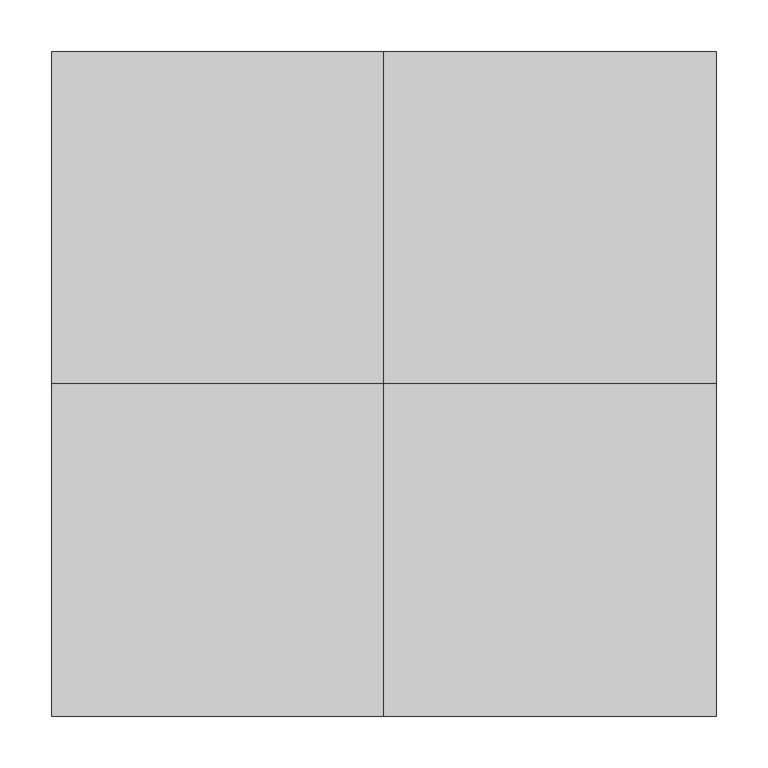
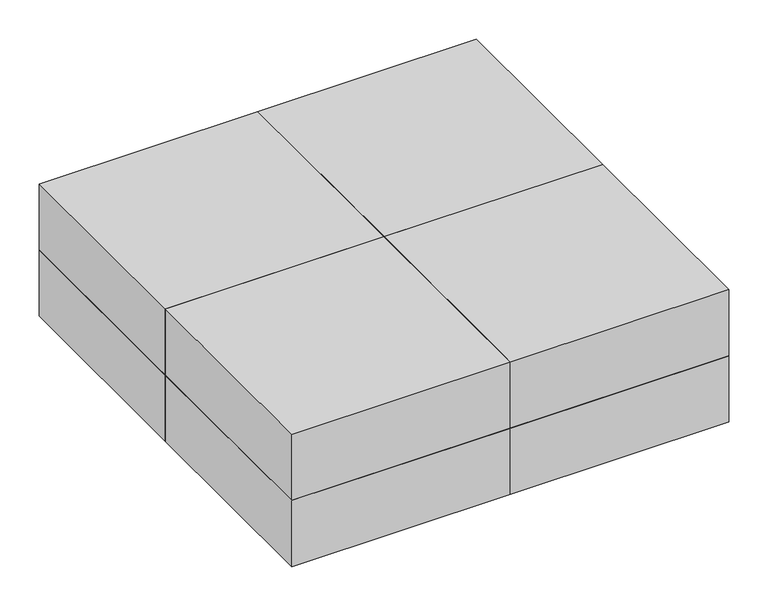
"""IFC4 building model written with IfcOpenShell, lengths in millimetres: proxy geometry, EFS_Fire & Smoke Combination Damper  : Fire Smoke Damper (FSD) _EFS-FS-1.5-1."""

from ifc_helpers import new_model, si_unit, frame, origin, place, context, project, spatial, polyline, outline, extrude, source, transform, mapped, element, save


def mechanical_equipment_000f9c02(model_context):
    return source(origin(), model_context, "Body", "SweptSolid", [
        extrude(outline(polyline([(0.0, -321.5), (0.0, 0.0), (321.5, 0.0), (321.5, -321.5), (0.0, -321.5)])), frame((0.0, 0.0, -203.0), z_axis=(0.0, 0.0, 1.0), x_axis=(1.0, 0.0, 0.0)), (0.0, 0.0, 1.0), 103.0),
        extrude(outline(polyline([(0.0, -321.5), (-321.5, -321.5), (-321.5, 0.0), (0.0, 0.0), (0.0, -321.5)])), frame((0.0, 0.0, -203.0), z_axis=(0.0, 0.0, 1.0), x_axis=(1.0, 0.0, 0.0)), (0.0, 0.0, 1.0), 103.0),
        extrude(outline(polyline([(0.0, 321.5), (321.5, 321.5), (321.5, 0.0), (0.0, 0.0), (0.0, 321.5)])), frame((0.0, 0.0, -203.0), z_axis=(0.0, 0.0, 1.0), x_axis=(1.0, 0.0, 0.0)), (0.0, 0.0, 1.0), 103.0),
        extrude(outline(polyline([(0.0, 321.5), (0.0, 0.0), (-321.5, 0.0), (-321.5, 321.5), (0.0, 321.5)])), frame((0.0, 0.0, -203.0), z_axis=(0.0, 0.0, 1.0), x_axis=(1.0, 0.0, 0.0)), (0.0, 0.0, 1.0), 103.0),
        extrude(outline(polyline([(0.0, -321.5), (0.0, 0.0), (321.5, 0.0), (321.5, -321.5), (0.0, -321.5)])), frame((0.0, 0.0, -100.0), z_axis=(0.0, 0.0, 1.0), x_axis=(1.0, 0.0, 0.0)), (0.0, 0.0, 1.0), 103.0),
        extrude(outline(polyline([(0.0, -321.5), (-321.5, -321.5), (-321.5, 0.0), (0.0, 0.0), (0.0, -321.5)])), frame((0.0, 0.0, -100.0), z_axis=(0.0, 0.0, 1.0), x_axis=(1.0, 0.0, 0.0)), (0.0, 0.0, 1.0), 103.0),
        extrude(outline(polyline([(0.0, 321.5), (321.5, 321.5), (321.5, 0.0), (0.0, 0.0), (0.0, 321.5)])), frame((0.0, 0.0, -100.0), z_axis=(0.0, 0.0, 1.0), x_axis=(1.0, 0.0, 0.0)), (0.0, 0.0, 1.0), 103.0),
        extrude(outline(polyline([(0.0, 321.5), (0.0, 0.0), (-321.5, 0.0), (-321.5, 321.5), (0.0, 321.5)])), frame((0.0, 0.0, -100.0), z_axis=(0.0, 0.0, 1.0), x_axis=(1.0, 0.0, 0.0)), (0.0, 0.0, 1.0), 103.0),
    ])


if __name__ == "__main__":
    model = new_model("IFC4")
    model_context = context("Model", 3, world=origin())
    ifc_project = project(units=[si_unit("LENGTHUNIT", "METRE", prefix="MILLI")], contexts=[model_context])
    site = spatial("IfcSite", under=ifc_project)
    building = spatial("IfcBuilding", under=site)
    placement = place(None, origin())
    mechanical_equipment_shape = mechanical_equipment_000f9c02(model_context)
    element("IfcBuildingElementProxy", 1, Name="EFS_Fire & Smoke Combination Damper  : Fire Smoke Damper (FSD) _EFS-FS-1.5-1", ObjectType="EFS_Fire & Smoke Combination Damper  : Fire Smoke Damper (FSD) _EFS-FS-1.5-1", at=placement, inside=building, context=model_context, shape_type="MappedRepresentation", body=[
        mapped(mechanical_equipment_shape, transform((0.0, 0.0, 0.0), x_axis=(1.0, 0.0, 0.0), y_axis=(0.0, 1.0, 0.0), z_axis=(0.0, 0.0, 1.0))),
    ])
    save(model, "model.ifc")
